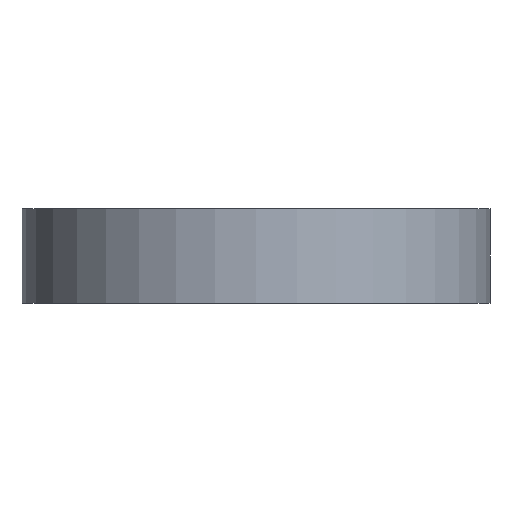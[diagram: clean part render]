
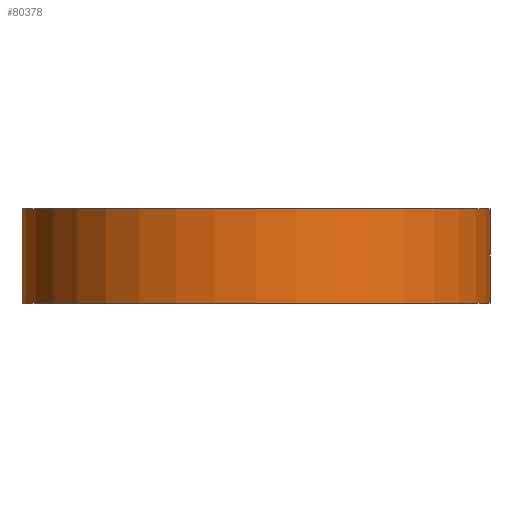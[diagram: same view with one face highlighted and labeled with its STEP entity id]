
A CAD part, front view. The second image highlights one B-rep face of the part: STEP entity #80378.
In plain terms, the highlighted cylindrical face has radius 46 mm (diameter 92 mm), a full revolution.
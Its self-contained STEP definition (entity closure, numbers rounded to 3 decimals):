
#45 = PLANE('',#46);
#46 = AXIS2_PLACEMENT_3D('',#47,#48,#49);
#47 = CARTESIAN_POINT('',(0.,0.,185.));
#48 = DIRECTION('',(0.,0.,1.));
#49 = DIRECTION('',(1.,0.,-0.));
#6060 = EDGE_CURVE('',#6061,#6061,#6063,.T.);
#6061 = VERTEX_POINT('',#6062);
#6062 = CARTESIAN_POINT('',(46.,0.,185.));
#6063 = SURFACE_CURVE('',#6064,(#6069,#6076),.PCURVE_S1.);
#6064 = CIRCLE('',#6065,46.);
#6065 = AXIS2_PLACEMENT_3D('',#6066,#6067,#6068);
#6066 = CARTESIAN_POINT('',(0.,0.,185.));
#6067 = DIRECTION('',(0.,0.,1.));
#6068 = DIRECTION('',(1.,0.,-0.));
#6069 = PCURVE('',#45,#6070);
#6070 = DEFINITIONAL_REPRESENTATION('',(#6071),#6075);
#6071 = CIRCLE('',#6072,46.);
#6072 = AXIS2_PLACEMENT_2D('',#6073,#6074);
#6073 = CARTESIAN_POINT('',(0.,0.));
#6074 = DIRECTION('',(1.,-0.));
#6075 = ( GEOMETRIC_REPRESENTATION_CONTEXT(2) 
PARAMETRIC_REPRESENTATION_CONTEXT() REPRESENTATION_CONTEXT('2D SPACE',''
  ) );
#6076 = PCURVE('',#6077,#6082);
#6077 = CYLINDRICAL_SURFACE('',#6078,46.);
#6078 = AXIS2_PLACEMENT_3D('',#6079,#6080,#6081);
#6079 = CARTESIAN_POINT('',(0.,0.,185.));
#6080 = DIRECTION('',(-0.,-0.,-1.));
#6081 = DIRECTION('',(1.,0.,0.));
#6082 = DEFINITIONAL_REPRESENTATION('',(#6083),#6087);
#6083 = LINE('',#6084,#6085);
#6084 = CARTESIAN_POINT('',(-0.,0.));
#6085 = VECTOR('',#6086,1.);
#6086 = DIRECTION('',(-1.,0.));
#6087 = ( GEOMETRIC_REPRESENTATION_CONTEXT(2) 
PARAMETRIC_REPRESENTATION_CONTEXT() REPRESENTATION_CONTEXT('2D SPACE',''
  ) );
#80378 = ADVANCED_FACE('',(#80379),#6077,.T.);
#80379 = FACE_BOUND('',#80380,.F.);
#80380 = EDGE_LOOP('',(#80381,#80404,#80431,#80432));
#80381 = ORIENTED_EDGE('',*,*,#80382,.T.);
#80382 = EDGE_CURVE('',#6061,#80383,#80385,.T.);
#80383 = VERTEX_POINT('',#80384);
#80384 = CARTESIAN_POINT('',(46.,0.,166.5));
#80385 = SEAM_CURVE('',#80386,(#80390,#80397),.PCURVE_S1.);
#80386 = LINE('',#80387,#80388);
#80387 = CARTESIAN_POINT('',(46.,0.,185.));
#80388 = VECTOR('',#80389,1.);
#80389 = DIRECTION('',(0.,0.,-1.));
#80390 = PCURVE('',#6077,#80391);
#80391 = DEFINITIONAL_REPRESENTATION('',(#80392),#80396);
#80392 = LINE('',#80393,#80394);
#80393 = CARTESIAN_POINT('',(-6.283,0.));
#80394 = VECTOR('',#80395,1.);
#80395 = DIRECTION('',(-0.,1.));
#80396 = ( GEOMETRIC_REPRESENTATION_CONTEXT(2) 
PARAMETRIC_REPRESENTATION_CONTEXT() REPRESENTATION_CONTEXT('2D SPACE',''
  ) );
#80397 = PCURVE('',#6077,#80398);
#80398 = DEFINITIONAL_REPRESENTATION('',(#80399),#80403);
#80399 = LINE('',#80400,#80401);
#80400 = CARTESIAN_POINT('',(-0.,0.));
#80401 = VECTOR('',#80402,1.);
#80402 = DIRECTION('',(-0.,1.));
#80403 = ( GEOMETRIC_REPRESENTATION_CONTEXT(2) 
PARAMETRIC_REPRESENTATION_CONTEXT() REPRESENTATION_CONTEXT('2D SPACE',''
  ) );
#80404 = ORIENTED_EDGE('',*,*,#80405,.F.);
#80405 = EDGE_CURVE('',#80383,#80383,#80406,.T.);
#80406 = SURFACE_CURVE('',#80407,(#80412,#80419),.PCURVE_S1.);
#80407 = CIRCLE('',#80408,46.);
#80408 = AXIS2_PLACEMENT_3D('',#80409,#80410,#80411);
#80409 = CARTESIAN_POINT('',(0.,0.,166.5));
#80410 = DIRECTION('',(0.,0.,1.));
#80411 = DIRECTION('',(1.,0.,-0.));
#80412 = PCURVE('',#6077,#80413);
#80413 = DEFINITIONAL_REPRESENTATION('',(#80414),#80418);
#80414 = LINE('',#80415,#80416);
#80415 = CARTESIAN_POINT('',(-0.,18.5));
#80416 = VECTOR('',#80417,1.);
#80417 = DIRECTION('',(-1.,0.));
#80418 = ( GEOMETRIC_REPRESENTATION_CONTEXT(2) 
PARAMETRIC_REPRESENTATION_CONTEXT() REPRESENTATION_CONTEXT('2D SPACE',''
  ) );
#80419 = PCURVE('',#80420,#80425);
#80420 = PLANE('',#80421);
#80421 = AXIS2_PLACEMENT_3D('',#80422,#80423,#80424);
#80422 = CARTESIAN_POINT('',(0.,0.,166.5));
#80423 = DIRECTION('',(0.,0.,1.));
#80424 = DIRECTION('',(1.,0.,-0.));
#80425 = DEFINITIONAL_REPRESENTATION('',(#80426),#80430);
#80426 = CIRCLE('',#80427,46.);
#80427 = AXIS2_PLACEMENT_2D('',#80428,#80429);
#80428 = CARTESIAN_POINT('',(0.,0.));
#80429 = DIRECTION('',(1.,0.));
#80430 = ( GEOMETRIC_REPRESENTATION_CONTEXT(2) 
PARAMETRIC_REPRESENTATION_CONTEXT() REPRESENTATION_CONTEXT('2D SPACE',''
  ) );
#80431 = ORIENTED_EDGE('',*,*,#80382,.F.);
#80432 = ORIENTED_EDGE('',*,*,#6060,.T.);
